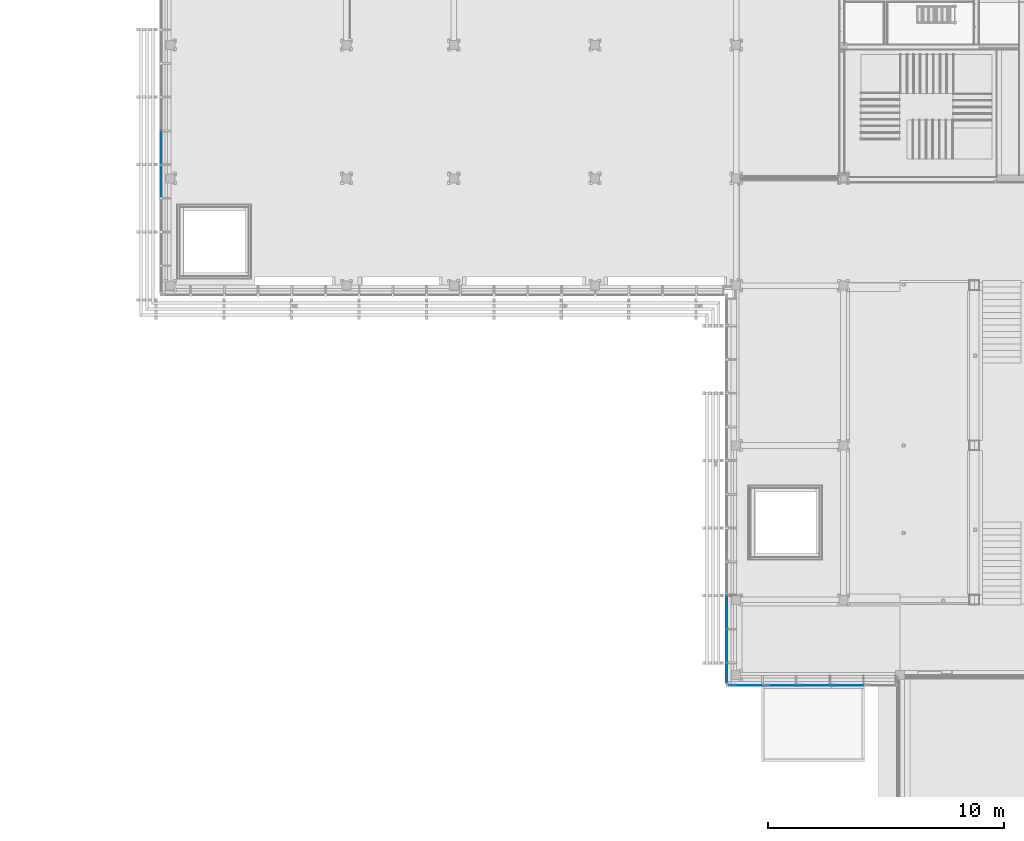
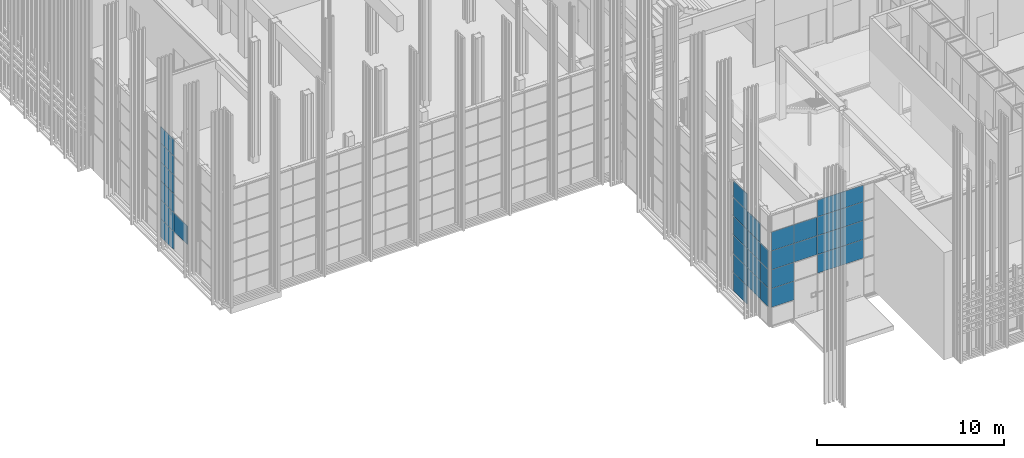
# One storey, part 51 of 260: 34 plates, 1 element without a shape of its own.
"""IFC2X3 building model written with IfcOpenShell, lengths in millimetres."""

from ifc_helpers import new_model, entity, si_unit, converted_unit, derived_unit, money_unit, direction, frame, origin_with_axes, place, context, subcontext, project, spatial, faceted_brep, source, transform, mapped, material, type_object, element, aggregate, save


model = new_model("IFC2X3")

# Units and contexts
model_context = context("Model", 3, precision=0.01, world=origin_with_axes(), true_north=direction((0.0, 1.0)))
body_context = subcontext(model_context, "Body", "Model", "MODEL_VIEW")
ifc_project = project(units=[si_unit("LENGTHUNIT", "METRE", prefix="MILLI"), si_unit("AREAUNIT", "SQUARE_METRE"), si_unit("VOLUMEUNIT", "CUBIC_METRE"), converted_unit("PLANEANGLEUNIT", "DEGREE", entity("IfcPlaneAngleMeasure", 0.0174532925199), si_unit("PLANEANGLEUNIT", "RADIAN"), dimensions=[0, 0, 0, 0, 0, 0, 0]), money_unit("EUR"), converted_unit("TIMEUNIT", "Year", entity("IfcTimeMeasure", 31556926.0), si_unit("TIMEUNIT", "SECOND"), dimensions=[0, 0, 1, 0, 0, 0, 0]), si_unit("MASSUNIT", "GRAM", prefix="KILO"), si_unit("THERMODYNAMICTEMPERATUREUNIT", "DEGREE_CELSIUS"), si_unit("LUMINOUSINTENSITYUNIT", "LUMEN"), si_unit("ENERGYUNIT", "JOULE", prefix="MEGA"), derived_unit("THERMALCONDUCTANCEUNIT", [(si_unit("POWERUNIT", "WATT"), 1), (si_unit("LENGTHUNIT", "METRE"), -1), (si_unit("THERMODYNAMICTEMPERATUREUNIT", "KELVIN"), -1)]), derived_unit("SPECIFICHEATCAPACITYUNIT", [(si_unit("ENERGYUNIT", "JOULE"), 1), (si_unit("MASSUNIT", "GRAM", prefix="KILO"), -1), (si_unit("THERMODYNAMICTEMPERATUREUNIT", "KELVIN"), -1)]), derived_unit("MASSDENSITYUNIT", [(si_unit("MASSUNIT", "GRAM", prefix="KILO"), 1), (si_unit("VOLUMEUNIT", "CUBIC_METRE"), -1)])], contexts=[model_context])

# Site, building, storey
site_placement = place(None, origin_with_axes())
site = spatial("IfcSite", under=ifc_project, at=site_placement, Name="Kolde pst 67a", CompositionType="ELEMENT")
building_placement = place(site_placement, origin_with_axes())
building = spatial("IfcBuilding", under=site, at=building_placement, Name="Riigigümnaasium", CompositionType="ELEMENT")
storey_placement = place(building_placement, origin_with_axes())
storey = spatial("IfcBuildingStorey", under=building, at=storey_placement, Name="1. korrus", CompositionType="ELEMENT", Elevation=0.0)

# Curtain wall, plates
curtain_wall_type = type_object("IfcCurtainWallType", Name="Curtain Wall Type", PredefinedType="NOTDEFINED")
curtain_wall_placement = place(storey_placement, frame((47829.9854655, 8727.77020058, -0.000749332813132), z_axis=(0.0, 0.0, 1.0), x_axis=(1.0, 0.0, 0.0)))
curtain_wall = element("IfcCurtainWall", 1, at=curtain_wall_placement, inside=storey, type_object=curtain_wall_type, Name="KLAASFASSAAD")
ifc_material = material(Name="_KLAAS - kirgas")
plate_type_1 = type_object("IfcPlateType", Name="Main Panel 76 x 1220 x 33", PredefinedType="NOTDEFINED")
shared_shape_1 = source(origin_with_axes(), body_context, "Body", "Brep", [
    faceted_brep([(-2381.56117781, 1224.99999003, -16.5), (-2381.56117781, 1224.99999003, 16.5), (-1033.80918651, 1224.99999003, 16.5), (-1033.80918651, 1224.99999003, -16.5), (-2381.56117781, 4.99999028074, -16.5), (-2381.56117781, 4.99999028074, 16.5), (-1033.80918651, 4.99999028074, 16.5), (-957.939936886, 4.99999028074, 16.5), (-957.939936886, 1224.99999003, 16.5), (-957.939936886, 1224.99999003, -16.5), (-957.939936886, 4.99999028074, -16.5), (-1033.80918651, 4.99999028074, -16.5)], [[[0, 1, 2, 3]], [[4, 5, 1, 0]], [[1, 5, 6, 7, 8, 2]], [[3, 2, 8, 9]], [[0, 3, 9, 10, 11, 4]], [[11, 6, 5, 4]], [[10, 7, 6, 11]], [[9, 8, 7, 10]]]),
])
plate_1_placement = place(curtain_wall_placement, frame((0.0, -2.62676991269e-07, 1845.00074933), z_axis=(0.0, 0.0, 1.0), x_axis=(9.11614519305e-10, -1.0, 0.0)))
plate_1 = element("IfcPlate", 2, at=plate_1_placement, type_object=plate_type_1, material=ifc_material, Name="RF PANEEL PEAMINE-010", context=body_context, shape_type="MappedRepresentation", body=[
    mapped(shared_shape_1, transform((1457.77009981, 0.0, -615.0), x_axis=(1.0, 0.0, 0.0), y_axis=(0.0, 0.0, 1.0), z_axis=(0.0, -1.0, 0.0))),
])
plate_2_placement = place(curtain_wall_placement, frame((0.0, -2.82199152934e-07, 3075.00074933), z_axis=(0.0, 0.0, 1.0), x_axis=(9.11614519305e-10, -1.0, 0.0)))
plate_2 = element("IfcPlate", 3, at=plate_2_placement, type_object=plate_type_1, material=ifc_material, Name="RF PANEEL PEAMINE-010", context=body_context, shape_type="MappedRepresentation", body=[
    mapped(shared_shape_1, transform((1457.77009979, 0.0, -615.0), x_axis=(1.0, 0.0, 0.0), y_axis=(0.0, 0.0, 1.0), z_axis=(0.0, -1.0, 0.0))),
])
plate_type_2 = type_object("IfcPlateType", Name="Main Panel 72 x 1195 x 33", PredefinedType="NOTDEFINED")
shared_shape_2 = source(origin_with_axes(), body_context, "Body", "Brep", [
    faceted_brep([(-2777.75197811, 1225.00067812, -16.5), (-2777.75197811, 1225.00067812, 16.5), (-1430.00000069, 1225.00067812, 16.5), (-1430.00000069, 1225.00067812, -16.5), (-2777.75199941, 30.0000019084, -16.5), (-2777.75199941, 30.0000019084, 16.5), (-1430.00000069, 30.0000019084, 16.5), (-1357.75198011, 30.0000019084, 16.5), (-1357.75198011, 1225.00067812, 16.5), (-1357.75198011, 1225.00067812, -16.5), (-1357.75198011, 30.0000019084, -16.5), (-1430.00000069, 30.0000019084, -16.5)], [[[0, 1, 2, 3]], [[4, 5, 1, 0]], [[1, 5, 6, 7, 8, 2]], [[3, 2, 8, 9]], [[0, 3, 9, 10, 11, 4]], [[11, 6, 5, 4]], [[10, 7, 6, 11]], [[9, 8, 7, 10]]]),
])
plate_3_placement = place(curtain_wall_placement, frame((-1.30472699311e-06, 1431.20707606, 615.000374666), z_axis=(0.0, 0.0, 1.0), x_axis=(9.1161639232e-10, -1.0, 0.0)))
plate_3 = element("IfcPlate", 4, at=plate_3_placement, type_object=plate_type_2, material=ifc_material, Name="RF PANEEL PEAMINE-010", context=body_context, shape_type="MappedRepresentation", body=[
    mapped(shared_shape_2, transform((1855.16799139, 0.0, -615.000374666), x_axis=(1.0, 0.0, 0.0), y_axis=(0.0, 0.0, 1.0), z_axis=(0.0, -1.0, 0.0))),
])
plate_type_3 = type_object("IfcPlateType", Name="Main Panel 72 x 1220 x 33", PredefinedType="NOTDEFINED")
shared_shape_3 = source(origin_with_axes(), body_context, "Body", "Brep", [
    faceted_brep([(-2777.75198662, 1225.00000656, -16.5), (-2777.75198662, 1225.00000656, 16.5), (-1430.0, 1225.00000656, 16.5), (-1430.0, 1225.00000656, -16.5), (-2777.75198662, 4.99999672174, -16.5), (-2777.75198662, 4.99999672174, 16.5), (-1430.0, 4.99999672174, 16.5), (-1357.75198007, 4.99999672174, 16.5), (-1357.75198007, 1225.00000656, 16.5), (-1357.75198007, 1225.00000656, -16.5), (-1357.75198007, 4.99999672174, -16.5), (-1430.0, 4.99999672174, -16.5)], [[[0, 1, 2, 3]], [[4, 5, 1, 0]], [[1, 5, 6, 7, 8, 2]], [[3, 2, 8, 9]], [[0, 3, 9, 10, 11, 4]], [[11, 6, 5, 4]], [[10, 7, 6, 11]], [[9, 8, 7, 10]]]),
])
plate_4_placement = place(curtain_wall_placement, frame((-1.30472699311e-06, 1431.20707357, 1845.00074933), z_axis=(0.0, 0.0, 1.0), x_axis=(9.1161639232e-10, -1.0, 0.0)))
plate_4 = element("IfcPlate", 5, at=plate_4_placement, type_object=plate_type_3, material=ifc_material, Name="RF PANEEL PEAMINE-010", context=body_context, shape_type="MappedRepresentation", body=[
    mapped(shared_shape_3, transform((1855.1679889, 0.0, -615.0), x_axis=(1.0, 0.0, 0.0), y_axis=(0.0, 0.0, 1.0), z_axis=(0.0, -1.0, 0.0))),
])
plate_5_placement = place(curtain_wall_placement, frame((-1.30472699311e-06, 1431.20707357, 3075.00074933), z_axis=(0.0, 0.0, 1.0), x_axis=(9.1161639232e-10, -1.0, 0.0)))
plate_5 = element("IfcPlate", 6, at=plate_5_placement, type_object=plate_type_3, material=ifc_material, Name="RF PANEEL PEAMINE-010", context=body_context, shape_type="MappedRepresentation", body=[
    mapped(shared_shape_3, transform((1855.1679889, 0.0, -615.0), x_axis=(1.0, 0.0, 0.0), y_axis=(0.0, 0.0, 1.0), z_axis=(0.0, -1.0, 0.0))),
])
plate_6_placement = place(curtain_wall_placement, frame((-1.30472699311e-06, 1431.20707357, 5535.00074933), z_axis=(0.0, 0.0, 1.0), x_axis=(9.1161639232e-10, -1.0, 0.0)))
plate_6 = element("IfcPlate", 7, at=plate_6_placement, type_object=plate_type_3, material=ifc_material, Name="RF PANEEL PEAMINE-047", context=body_context, shape_type="MappedRepresentation", body=[
    mapped(shared_shape_3, transform((1855.1679889, 0.0, -615.0), x_axis=(1.0, 0.0, 0.0), y_axis=(0.0, 0.0, 1.0), z_axis=(0.0, -1.0, 0.0))),
])
plate_7_placement = place(curtain_wall_placement, frame((-1.30472699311e-06, 1431.20707357, 4305.00074933), z_axis=(0.0, 0.0, 1.0), x_axis=(9.1161639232e-10, -1.0, 0.0)))
plate_7 = element("IfcPlate", 8, at=plate_7_placement, type_object=plate_type_3, material=ifc_material, Name="RF PANEEL PEAMINE-034", context=body_context, shape_type="MappedRepresentation", body=[
    mapped(shared_shape_3, transform((1855.1679889, 0.0, -615.0), x_axis=(1.0, 0.0, 0.0), y_axis=(0.0, 0.0, 1.0), z_axis=(0.0, -1.0, 0.0))),
])
plate_type_4 = type_object("IfcPlateType", Name="Main Panel 1122 x 1220 x 33", PredefinedType="NOTDEFINED")
shared_shape_4 = source(origin_with_axes(), body_context, "Body", "Brep", [
    faceted_brep([(-1703.56557318, 1225.0000029, -16.5), (-1703.56557318, 1225.0000029, 16.5), (-1430.00001212, 1225.0000029, 16.5), (-1430.00001212, 1225.0000029, -16.5), (-1703.56557318, 5.00000249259, -16.5), (-1703.56557318, 5.00000249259, 16.5), (-1430.00001212, 5.00000249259, 16.5), (-307.908334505, 5.00000249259, 16.5), (-307.908334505, 1225.0000029, 16.5), (-307.908334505, 1225.0000029, -16.5), (-307.908334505, 5.00000249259, -16.5), (-1430.00001212, 5.00000249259, -16.5)], [[[0, 1, 2, 3]], [[4, 5, 1, 0]], [[1, 5, 6, 7, 8, 2]], [[3, 2, 8, 9]], [[0, 3, 9, 10, 11, 4]], [[11, 6, 5, 4]], [[10, 7, 6, 11]], [[9, 8, 7, 10]]]),
])
plate_8_placement = place(curtain_wall_placement, frame((631.407612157, -1457.77027111, 3075.00074933), z_axis=(0.0, 0.0, 1.0), x_axis=(1.0, -2.70881141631e-07, 0.0)))
plate_8 = element("IfcPlate", 9, at=plate_8_placement, type_object=plate_type_4, material=ifc_material, Name="RF PANEEL PEAMINE-010", context=body_context, shape_type="MappedRepresentation", body=[
    mapped(shared_shape_4, transform((1182.15797217, 0.0, -615.0), x_axis=(1.0, 1.88105965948e-10, 0.0), y_axis=(0.0, 0.0, 1.0), z_axis=(1.88105965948e-10, -1.0, 0.0))),
])
plate_9_placement = place(curtain_wall_placement, frame((631.407612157, -1457.77027111, 5535.00074933), z_axis=(0.0, 0.0, 1.0), x_axis=(1.0, -2.70881141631e-07, 0.0)))
plate_9 = element("IfcPlate", 10, at=plate_9_placement, type_object=plate_type_4, material=ifc_material, Name="RF PANEEL PEAMINE-027", context=body_context, shape_type="MappedRepresentation", body=[
    mapped(shared_shape_4, transform((1182.15797217, 0.0, -615.0), x_axis=(1.0, 1.88105965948e-10, 0.0), y_axis=(0.0, 0.0, 1.0), z_axis=(1.88105965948e-10, -1.0, 0.0))),
])
shared_shape_5 = source(origin_with_axes(), body_context, "Body", "Brep", [
    faceted_brep([(-1727.90833497, 1225.00000656, -16.5), (-1727.90833497, 1225.00000656, 16.5), (-1430.0, 1225.00000656, 16.5), (-1430.0, 1225.00000656, -16.5), (-1727.90833497, 4.99999672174, -16.5), (-1727.90833497, 4.99999672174, 16.5), (-1430.0, 4.99999672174, 16.5), (-307.908328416, 4.99999672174, 16.5), (-307.908328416, 1225.00000656, 16.5), (-307.908328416, 1225.00000656, -16.5), (-307.908328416, 4.99999672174, -16.5), (-1430.0, 4.99999672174, -16.5)], [[[0, 1, 2, 3]], [[4, 5, 1, 0]], [[1, 5, 6, 7, 8, 2]], [[3, 2, 8, 9]], [[0, 3, 9, 10, 11, 4]], [[11, 6, 5, 4]], [[10, 7, 6, 11]], [[9, 8, 7, 10]]]),
])
plate_10_placement = place(curtain_wall_placement, frame((4948.2933632, -1457.77144047, 3075.00074933), z_axis=(0.0, 0.0, 1.0), x_axis=(1.0, -2.70881141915e-07, 0.0)))
plate_10 = element("IfcPlate", 11, at=plate_10_placement, type_object=plate_type_4, material=ifc_material, Name="RF PANEEL PEAMINE-010", context=body_context, shape_type="MappedRepresentation", body=[
    mapped(shared_shape_5, transform((1155.27222113, 0.0, -615.0), x_axis=(1.0, 1.88106250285e-10, 0.0), y_axis=(0.0, 0.0, 1.0), z_axis=(1.88106250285e-10, -1.0, 0.0))),
])
plate_11_placement = place(curtain_wall_placement, frame((3518.2933632, -1457.77105311, 4305.00074933), z_axis=(0.0, 0.0, 1.0), x_axis=(1.0, -2.70881141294e-07, 0.0)))
plate_11 = element("IfcPlate", 12, at=plate_11_placement, type_object=plate_type_4, material=ifc_material, Name="RF PANEEL PEAMINE-015", context=body_context, shape_type="MappedRepresentation", body=[
    mapped(shared_shape_5, transform((1155.27222113, 0.0, -615.0), x_axis=(1.0, 1.88105629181e-10, 0.0), y_axis=(0.0, 0.0, 1.0), z_axis=(1.88105629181e-10, -1.0, 0.0))),
])
plate_12_placement = place(curtain_wall_placement, frame((4948.2933632, -1457.77144047, 4305.00074933), z_axis=(0.0, 0.0, 1.0), x_axis=(1.0, -2.70881141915e-07, 0.0)))
plate_12 = element("IfcPlate", 13, at=plate_12_placement, type_object=plate_type_4, material=ifc_material, Name="RF PANEEL PEAMINE-016", context=body_context, shape_type="MappedRepresentation", body=[
    mapped(shared_shape_5, transform((1155.27222113, 0.0, -615.0), x_axis=(1.0, 1.88106250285e-10, 0.0), y_axis=(0.0, 0.0, 1.0), z_axis=(1.88106250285e-10, -1.0, 0.0))),
])
plate_13_placement = place(curtain_wall_placement, frame((4948.29335965, -1457.77144047, 5535.00074933), z_axis=(0.0, 0.0, 1.0), x_axis=(1.0, -2.70881141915e-07, 0.0)))
plate_13 = element("IfcPlate", 14, at=plate_13_placement, type_object=plate_type_4, material=ifc_material, Name="RF PANEEL PEAMINE-021", context=body_context, shape_type="MappedRepresentation", body=[
    mapped(shared_shape_5, transform((1155.27222468, 0.0, -615.0), x_axis=(1.0, 1.88106250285e-10, 0.0), y_axis=(0.0, 0.0, 1.0), z_axis=(1.88106250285e-10, -1.0, 0.0))),
])
plate_14_placement = place(curtain_wall_placement, frame((3518.2933632, -1457.77105311, 5535.00074933), z_axis=(0.0, 0.0, 1.0), x_axis=(1.0, -2.70881141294e-07, 0.0)))
plate_14 = element("IfcPlate", 15, at=plate_14_placement, type_object=plate_type_4, material=ifc_material, Name="RF PANEEL PEAMINE-023", context=body_context, shape_type="MappedRepresentation", body=[
    mapped(shared_shape_5, transform((1155.27222113, 0.0, -615.0), x_axis=(1.0, 1.88105629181e-10, 0.0), y_axis=(0.0, 0.0, 1.0), z_axis=(1.88105629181e-10, -1.0, 0.0))),
])
plate_15_placement = place(curtain_wall_placement, frame((3518.2933632, -1457.77105311, 3075.00074933), z_axis=(0.0, 0.0, 1.0), x_axis=(1.0, -2.70881141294e-07, 0.0)))
plate_15 = element("IfcPlate", 16, at=plate_15_placement, type_object=plate_type_4, material=ifc_material, Name="RF PANEEL PEAMINE-010", context=body_context, shape_type="MappedRepresentation", body=[
    mapped(shared_shape_5, transform((1155.27222113, 0.0, -615.0), x_axis=(1.0, 1.88105629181e-10, 0.0), y_axis=(0.0, 0.0, 1.0), z_axis=(1.88105629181e-10, -1.0, 0.0))),
])
shared_shape_6 = source(origin_with_axes(), body_context, "Body", "Brep", [
    faceted_brep([(-1703.56557318, 1225.0000029, -16.5), (-1703.56557318, 1225.0000029, 16.5), (-1430.00001212, 1225.0000029, 16.5), (-1430.00001212, 1225.0000029, -16.5), (-1703.56557318, 5.00000249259, -16.5), (-1703.56557318, 5.00000249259, 16.5), (-1430.00001212, 5.00000249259, 16.5), (-307.908334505, 5.00000249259, 16.5), (-307.908334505, 1225.0000029, 16.5), (-307.908334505, 1225.0000029, -16.5), (-307.908334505, 5.00000249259, -16.5), (-1430.00001212, 5.00000249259, -16.5)], [[[0, 1, 2, 3]], [[4, 5, 1, 0]], [[1, 5, 6, 7, 8, 2]], [[3, 2, 8, 9]], [[0, 3, 9, 10, 11, 4]], [[11, 6, 5, 4]], [[10, 7, 6, 11]], [[9, 8, 7, 10]]]),
])
plate_16_placement = place(curtain_wall_placement, frame((631.407612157, -1457.77027111, 4305.00074933), z_axis=(0.0, 0.0, 1.0), x_axis=(1.0, -2.70881141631e-07, 0.0)))
plate_16 = element("IfcPlate", 17, at=plate_16_placement, type_object=plate_type_4, material=ifc_material, Name="RF PANEEL PEAMINE-011", context=body_context, shape_type="MappedRepresentation", body=[
    mapped(shared_shape_6, transform((1182.15797217, 0.0, -615.0), x_axis=(1.0, 1.88105965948e-10, 0.0), y_axis=(0.0, 0.0, 1.0), z_axis=(1.88105965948e-10, -1.0, 0.0))),
])
plate_17_placement = place(curtain_wall_placement, frame((631.40761046, -1457.77027111, 1845.00074933), z_axis=(0.0, 0.0, 1.0), x_axis=(1.0, -2.70881141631e-07, 0.0)))
plate_17 = element("IfcPlate", 18, at=plate_17_placement, type_object=plate_type_4, material=ifc_material, Name="Pöörduks", context=body_context, shape_type="MappedRepresentation", body=[
    mapped(shared_shape_6, transform((1182.15797387, 0.0, -615.0), x_axis=(1.0, 1.88105965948e-10, 0.0), y_axis=(0.0, 0.0, 1.0), z_axis=(1.88105965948e-10, -1.0, 0.0))),
])
shared_shape_7 = source(origin_with_axes(), body_context, "Body", "Brep", [
    faceted_brep([(-297.908335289, 1225.00000683, -16.5), (-297.908335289, 1225.00000683, 16.5), (-2.50608422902e-07, 1225.00000683, 16.5), (-2.50608422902e-07, 1225.00000683, -16.5), (-297.908335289, 4.99999672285, -16.5), (-297.908335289, 4.99999672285, 16.5), (-2.50608422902e-07, 4.99999672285, 16.5), (1122.09167158, 4.99999672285, 16.5), (1122.09167158, 1225.00000683, 16.5), (1122.09167158, 1225.00000683, -16.5), (1122.09167158, 4.99999672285, -16.5), (-2.50608422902e-07, 4.99999672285, -16.5)], [[[0, 1, 2, 3]], [[4, 5, 1, 0]], [[1, 5, 6, 7, 8, 2]], [[3, 2, 8, 9]], [[0, 3, 9, 10, 11, 4]], [[11, 6, 5, 4]], [[10, 7, 6, 11]], [[9, 8, 7, 10]]]),
])
plate_18_placement = place(curtain_wall_placement, frame((2088.29336309, -1457.77066575, 4305.00074933), z_axis=(0.0, 0.0, 1.0), x_axis=(1.0, -2.70881141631e-07, 0.0)))
plate_18 = element("IfcPlate", 19, at=plate_18_placement, type_object=plate_type_4, material=ifc_material, Name="RF PANEEL PEAMINE-014", context=body_context, shape_type="MappedRepresentation", body=[
    mapped(shared_shape_7, transform((-274.727778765, 0.0, -615.0), x_axis=(1.0, 1.88105965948e-10, 0.0), y_axis=(0.0, 0.0, 1.0), z_axis=(1.88105965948e-10, -1.0, 0.0))),
])
plate_19_placement = place(curtain_wall_placement, frame((2088.29336309, -1457.77066575, 5535.00074933), z_axis=(0.0, 0.0, 1.0), x_axis=(1.0, -2.70881141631e-07, 0.0)))
plate_19 = element("IfcPlate", 20, at=plate_19_placement, type_object=plate_type_4, material=ifc_material, Name="RF PANEEL PEAMINE-025", context=body_context, shape_type="MappedRepresentation", body=[
    mapped(shared_shape_7, transform((-274.727778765, 0.0, -615.0), x_axis=(1.0, 1.88105965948e-10, 0.0), y_axis=(0.0, 0.0, 1.0), z_axis=(1.88105965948e-10, -1.0, 0.0))),
])
shared_shape_8 = source(origin_with_axes(), body_context, "Body", "Brep", [
    faceted_brep([(-2381.5611778, 1224.99999178, -16.5), (-2381.5611778, 1224.99999178, 16.5), (-1033.80918458, 1224.99999178, 16.5), (-1033.80918458, 1224.99999178, -16.5), (-2381.5611778, 4.99999028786, -16.5), (-2381.5611778, 4.99999028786, 16.5), (-1033.80918458, 4.99999028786, 16.5), (-957.939934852, 4.99999028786, 16.5), (-957.939934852, 1224.99999178, 16.5), (-957.939934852, 1224.99999178, -16.5), (-957.939934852, 4.99999028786, -16.5), (-1033.80918458, 4.99999028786, -16.5)], [[[0, 1, 2, 3]], [[4, 5, 1, 0]], [[1, 5, 6, 7, 8, 2]], [[3, 2, 8, 9]], [[0, 3, 9, 10, 11, 4]], [[11, 6, 5, 4]], [[10, 7, 6, 11]], [[9, 8, 7, 10]]]),
])
plate_20_placement = place(curtain_wall_placement, frame((0.0, -9.43114031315e-07, 5535.00074933), z_axis=(0.0, 0.0, 1.0), x_axis=(9.11614519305e-10, -1.0, 0.0)))
plate_20 = element("IfcPlate", 21, at=plate_20_placement, type_object=plate_type_1, material=ifc_material, Name="RF PANEEL PEAMINE-044", context=body_context, shape_type="MappedRepresentation", body=[
    mapped(shared_shape_8, transform((1457.77009913, 0.0, -615.0), x_axis=(1.0, 0.0, 0.0), y_axis=(0.0, 0.0, 1.0), z_axis=(0.0, -1.0, 0.0))),
])
plate_21_placement = place(curtain_wall_placement, frame((0.0, -6.22419449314e-07, 4305.00074933), z_axis=(0.0, 0.0, 1.0), x_axis=(9.11614519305e-10, -1.0, 0.0)))
plate_21 = element("IfcPlate", 22, at=plate_21_placement, type_object=plate_type_1, material=ifc_material, Name="RF PANEEL PEAMINE-033", context=body_context, shape_type="MappedRepresentation", body=[
    mapped(shared_shape_8, transform((1457.77009945, 0.0, -615.0), x_axis=(1.0, 0.0, 0.0), y_axis=(0.0, 0.0, 1.0), z_axis=(0.0, -1.0, 0.0))),
])
plate_type_5 = type_object("IfcPlateType", Name="Main Panel 915 x 1220 x 33", PredefinedType="NOTDEFINED")
shared_shape_9 = source(origin_with_axes(), body_context, "Body", "Brep", [
    faceted_brep([(-1935.00000983, 1225.00000656, -16.5), (-1935.00000983, 1225.00000656, 16.5), (-1430.0, 1225.00000656, 16.5), (-1430.0, 1225.00000656, -16.5), (-1935.00000983, 4.99999672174, -16.5), (-1935.00000983, 4.99999672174, 16.5), (-1430.0, 4.99999672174, 16.5), (-515.000003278, 4.99999672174, 16.5), (-515.000003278, 1225.00000656, 16.5), (-515.000003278, 1225.00000656, -16.5), (-515.000003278, 4.99999672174, -16.5), (-1430.0, 4.99999672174, -16.5)], [[[0, 1, 2, 3]], [[4, 5, 1, 0]], [[1, 5, 6, 7, 8, 2]], [[3, 2, 8, 9]], [[0, 3, 9, 10, 11, 4]], [[11, 6, 5, 4]], [[10, 7, 6, 11]], [[9, 8, 7, 10]]]),
])
plate_22_placement = place(curtain_wall_placement, frame((-23999.9358354, 21420.6075521, 3075.00074933), z_axis=(0.0, 0.0, 1.0), x_axis=(-7.64768489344e-06, -0.999999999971, 0.0)))
plate_22 = element("IfcPlate", 23, at=plate_22_placement, type_object=plate_type_5, material=ifc_material, Name="RF PANEEL PEAMINE-210", context=body_context, shape_type="MappedRepresentation", body=[
    mapped(shared_shape_9, transform((1293.3333377, 0.0, -615.0), x_axis=(1.0, 0.0, 0.0), y_axis=(0.0, 0.0, 1.0), z_axis=(0.0, -1.0, 0.0))),
])
plate_23_placement = place(curtain_wall_placement, frame((-23999.9358354, 21420.6075495, 5535.00074933), z_axis=(0.0, 0.0, 1.0), x_axis=(-7.64768489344e-06, -0.999999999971, 0.0)))
plate_23 = element("IfcPlate", 24, at=plate_23_placement, type_object=plate_type_5, material=ifc_material, Name="RF PANEEL PEAMINE-212", context=body_context, shape_type="MappedRepresentation", body=[
    mapped(shared_shape_9, transform((1293.33333514, 0.0, -615.0), x_axis=(1.0, 0.0, 0.0), y_axis=(0.0, 0.0, 1.0), z_axis=(0.0, -1.0, 0.0))),
])
shared_shape_10 = source(origin_with_axes(), body_context, "Body", "Brep", [
    faceted_brep([(-1935.00000983, 1225.00000656, -16.5), (-1935.00000983, 1225.00000656, 16.5), (-1430.0, 1225.00000656, 16.5), (-1430.0, 1225.00000656, -16.5), (-1935.00000983, 4.99999672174, -16.5), (-1935.00000983, 4.99999672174, 16.5), (-1430.0, 4.99999672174, 16.5), (-515.000003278, 4.99999672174, 16.5), (-515.000003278, 1225.00000656, 16.5), (-515.000003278, 1225.00000656, -16.5), (-515.000003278, 4.99999672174, -16.5), (-1430.0, 4.99999672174, -16.5)], [[[0, 1, 2, 3]], [[4, 5, 1, 0]], [[1, 5, 6, 7, 8, 2]], [[3, 2, 8, 9]], [[0, 3, 9, 10, 11, 4]], [[11, 6, 5, 4]], [[10, 7, 6, 11]], [[9, 8, 7, 10]]]),
])
plate_24_placement = place(curtain_wall_placement, frame((-23999.9358354, 21420.6075521, 4305.00074933), z_axis=(0.0, 0.0, 1.0), x_axis=(-7.64768489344e-06, -0.999999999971, 0.0)))
plate_24 = element("IfcPlate", 25, at=plate_24_placement, type_object=plate_type_5, material=ifc_material, Name="RF PANEEL PEAMINE-211", context=body_context, shape_type="MappedRepresentation", body=[
    mapped(shared_shape_10, transform((1293.3333377, 0.0, -615.0), x_axis=(1.0, 0.0, 0.0), y_axis=(0.0, 0.0, 1.0), z_axis=(0.0, -1.0, 0.0))),
])
plate_25_placement = place(curtain_wall_placement, frame((-23999.9467716, 19990.6075521, 1845.00074933), z_axis=(0.0, 0.0, 1.0), x_axis=(-7.64768489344e-06, -0.999999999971, 0.0)))
plate_25 = element("IfcPlate", 26, at=plate_25_placement, type_object=plate_type_5, material=ifc_material, Name="RF PANEEL PEAMINE-204", context=body_context, shape_type="MappedRepresentation", body=[
    mapped(shared_shape_10, transform((1293.3333377, 0.0, -615.0), x_axis=(1.0, 0.0, 0.0), y_axis=(0.0, 0.0, 1.0), z_axis=(0.0, -1.0, 0.0))),
])
plate_26_placement = place(curtain_wall_placement, frame((-23999.9358354, 21420.6075521, 1845.00074933), z_axis=(0.0, 0.0, 1.0), x_axis=(-7.64768489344e-06, -0.999999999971, 0.0)))
plate_26 = element("IfcPlate", 27, at=plate_26_placement, type_object=plate_type_5, material=ifc_material, Name="RF PANEEL PEAMINE-209", context=body_context, shape_type="MappedRepresentation", body=[
    mapped(shared_shape_10, transform((1293.3333377, 0.0, -615.0), x_axis=(1.0, 0.0, 0.0), y_axis=(0.0, 0.0, 1.0), z_axis=(0.0, -1.0, 0.0))),
])
plate_type_6 = type_object("IfcPlateType", Name="Main Panel 915 x 1075 x 33", PredefinedType="NOTDEFINED")
shared_shape_11 = source(origin_with_axes(), body_context, "Body", "Brep", [
    faceted_brep([(-1934.99999498, 1079.99888527, -16.5), (-1934.99999498, 1079.99888527, 16.5), (-1430.00000728, 1079.99888527, 16.5), (-1430.00000728, 1079.99888527, -16.5), (-1934.99999498, 4.99999671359, -16.5), (-1934.99999498, 4.99999671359, 16.5), (-1430.00000728, 4.99999671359, 16.5), (-514.999990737, 4.99999671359, 16.5), (-514.999990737, 1079.99888527, 16.5), (-514.999990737, 1079.99888527, -16.5), (-514.999990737, 4.99999671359, -16.5), (-1430.00000728, 4.99999671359, -16.5)], [[[0, 1, 2, 3]], [[4, 5, 1, 0]], [[1, 5, 6, 7, 8, 2]], [[3, 2, 8, 9]], [[0, 3, 9, 10, 11, 4]], [[11, 6, 5, 4]], [[10, 7, 6, 11]], [[9, 8, 7, 10]]]),
])
plate_27_placement = place(curtain_wall_placement, frame((-23999.935966, 21403.5242135, 6841.25008067), z_axis=(0.0, 0.0, 1.0), x_axis=(-7.64768489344e-06, -0.999999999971, 0.0)))
plate_27 = element("IfcPlate", 28, at=plate_27_placement, type_object=plate_type_6, material=ifc_material, Name="RF PANEEL PEAMINE-219", context=body_context, shape_type="MappedRepresentation", body=[
    mapped(shared_shape_11, transform((1276.24999914, 0.0, -691.249331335), x_axis=(1.0, 0.0, 0.0), y_axis=(0.0, 0.0, 1.0), z_axis=(0.0, -1.0, 0.0))),
])
plate_type_7 = type_object("IfcPlateType", Name="Main Panel 1122 x 1075 x 33", PredefinedType="NOTDEFINED")
shared_shape_12 = source(origin_with_axes(), body_context, "Body", "Brep", [
    faceted_brep([(-1727.90833496, 1079.9991445, -16.5), (-1727.90833496, 1079.9991445, 16.5), (-1429.9999995, 1079.9991232, 16.5), (-1429.9999995, 1079.9991232, -16.5), (-1727.90833496, 4.99999672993, -16.5), (-1727.90833496, 4.99999672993, 16.5), (-1429.9999995, 4.99999672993, 16.5), (-307.908326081, 4.99999672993, 16.5), (-307.908326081, 1079.99903796, 16.5), (-307.908326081, 1079.99903796, -16.5), (-307.908326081, 4.99999672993, -16.5), (-1429.9999995, 4.99999672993, -16.5)], [[[0, 1, 2, 3]], [[4, 5, 1, 0]], [[1, 5, 6, 7, 8, 2]], [[3, 2, 8, 9]], [[0, 3, 9, 10, 11, 4]], [[11, 6, 5, 4]], [[10, 7, 6, 11]], [[9, 8, 7, 10]]]),
])
plate_28_placement = place(curtain_wall_placement, frame((3552.63433692, -1457.77106242, 6841.2501928), z_axis=(0.0, 0.0, 1.0), x_axis=(1.0, -2.70881141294e-07, 0.0)))
plate_28 = element("IfcPlate", 29, at=plate_28_placement, type_object=plate_type_7, material=ifc_material, Name="RF PANEEL PEAMINE-026", context=body_context, shape_type="MappedRepresentation", body=[
    mapped(shared_shape_12, transform((1120.93124741, 0.0, -691.249443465), x_axis=(1.0, 1.88105629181e-10, 0.0), y_axis=(0.0, 0.0, 1.0), z_axis=(1.88105629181e-10, -1.0, 0.0))),
])
plate_29_placement = place(curtain_wall_placement, frame((4982.6343284, -1457.77144978, 6841.25013795), z_axis=(0.0, 0.0, 1.0), x_axis=(1.0, -2.70881141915e-07, 0.0)))
plate_29 = element("IfcPlate", 30, at=plate_29_placement, type_object=plate_type_7, material=ifc_material, Name="RF PANEEL PEAMINE-017", context=body_context, shape_type="MappedRepresentation", body=[
    mapped(shared_shape_12, transform((1120.93125593, 0.0, -691.24938862), x_axis=(1.0, 1.88106250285e-10, 0.0), y_axis=(0.0, 0.0, 1.0), z_axis=(1.88106250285e-10, -1.0, 0.0))),
])
plate_type_8 = type_object("IfcPlateType", Name="Main Panel 915 x 1195 x 33", PredefinedType="NOTDEFINED")
shared_shape_13 = source(origin_with_axes(), body_context, "Body", "Brep", [
    faceted_brep([(-1935.0000098, 1225.00046278, -16.5), (-1935.0000098, 1225.00046278, 16.5), (-1429.99999636, 1225.00046278, 16.5), (-1429.99999636, 1225.00046278, -16.5), (-1934.99998849, 30.0000018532, -16.5), (-1934.99998849, 30.0000018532, 16.5), (-1429.99999636, 30.0000018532, 16.5), (-514.999993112, 30.0000018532, 16.5), (-515.00001442, 1225.00046278, 16.5), (-515.00001442, 1225.00046278, -16.5), (-514.999993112, 30.0000018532, -16.5), (-1429.99999636, 30.0000018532, -16.5)], [[[0, 1, 2, 3]], [[4, 5, 1, 0]], [[1, 5, 6, 7, 8, 2]], [[3, 2, 8, 9]], [[0, 3, 9, 10, 11, 4]], [[11, 6, 5, 4]], [[10, 7, 6, 11]], [[9, 8, 7, 10]]]),
])
plate_30_placement = place(curtain_wall_placement, frame((-23999.9358354, 21420.6075495, 615.000387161), z_axis=(0.0, 0.0, 1.0), x_axis=(-7.64768489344e-06, -0.999999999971, 0.0)))
plate_30 = element("IfcPlate", 31, at=plate_30_placement, type_object=plate_type_8, material=ifc_material, Name="RF PANEEL PEAMINE-208", context=body_context, shape_type="MappedRepresentation", body=[
    mapped(shared_shape_13, transform((1293.33333514, 0.0, -615.000362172), x_axis=(1.0, 0.0, 0.0), y_axis=(0.0, 0.0, 1.0), z_axis=(0.0, -1.0, 0.0))),
])
plate_type_9 = type_object("IfcPlateType", Name="Main Panel 72 x 1075 x 33", PredefinedType="NOTDEFINED")
shared_shape_14 = source(origin_with_axes(), body_context, "Body", "Brep", [
    faceted_brep([(-2777.75196529, 1079.99919118, -16.5), (-2777.75196529, 1079.99919118, 16.5), (-1429.99999271, 1079.99919118, 16.5), (-1429.99999271, 1079.99919118, -16.5), (-2777.7519866, 4.9999967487, -16.5), (-2777.7519866, 4.9999967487, 16.5), (-1429.99999271, 4.9999967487, 16.5), (-1357.75199369, 4.9999967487, 16.5), (-1357.75197238, 1079.99919118, 16.5), (-1357.75197238, 1079.99919118, -16.5), (-1357.75199369, 4.9999967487, -16.5), (-1429.99999271, 4.9999967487, -16.5)], [[[0, 1, 2, 3]], [[4, 5, 1, 0]], [[1, 5, 6, 7, 8, 2]], [[3, 2, 8, 9]], [[0, 3, 9, 10, 11, 4]], [[11, 6, 5, 4]], [[10, 7, 6, 11]], [[9, 8, 7, 10]]]),
])
plate_31_placement = place(curtain_wall_placement, frame((-1.35317179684e-06, 1484.35307587, 6841.25023072), z_axis=(0.0, 0.0, 1.0), x_axis=(9.1161639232e-10, -1.0, 0.0)))
plate_31 = element("IfcPlate", 32, at=plate_31_placement, type_object=plate_type_9, material=ifc_material, Name="RF PANEEL PEAMINE-050", context=body_context, shape_type="MappedRepresentation", body=[
    mapped(shared_shape_14, transform((1908.3139912, 0.0, -691.249481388), x_axis=(1.0, 0.0, 0.0), y_axis=(0.0, 0.0, 1.0), z_axis=(0.0, -1.0, 0.0))),
])
plate_type_10 = type_object("IfcPlateType", Name="Main Panel 838 x 1220 x 33", PredefinedType="NOTDEFINED")
shared_shape_15 = source(origin_with_axes(), body_context, "Body", "Brep", [
    faceted_brep([(-947.939937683, 1225.0, -16.5), (-947.939937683, 1225.0, 16.5), (-110.0, 1225.0, 16.5), (-110.0, 1225.0, -16.5), (-947.939937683, 5.0, -16.5), (-947.939937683, 5.0, 16.5), (-110.0, 5.0, 16.5), (-110.0, 5.0, -16.5)], [[[0, 1, 2, 3]], [[4, 5, 1, 0]], [[1, 5, 6, 2]], [[3, 2, 6, 7]], [[0, 3, 7, 4]], [[7, 6, 5, 4]]]),
])
plate_32_placement = place(curtain_wall_placement, frame((8.94559093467e-07, -981.300127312, 4305.00074933), z_axis=(0.0, 0.0, 1.0), x_axis=(9.11614519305e-10, -1.0, 0.0)))
plate_32 = element("IfcPlate", 33, at=plate_32_placement, type_object=plate_type_10, material=ifc_material, Name="RF PANEEL PEAMINE-029", context=body_context, shape_type="MappedRepresentation", body=[
    mapped(shared_shape_15, transform((476.469972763, 0.0, -615.0), x_axis=(1.0, 0.0, 0.0), y_axis=(0.0, 0.0, 1.0), z_axis=(0.0, -1.0, 0.0))),
])
plate_33_placement = place(curtain_wall_placement, frame((8.9455198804e-07, -981.300126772, 1845.00074933), z_axis=(0.0, 0.0, 1.0), x_axis=(9.11614519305e-10, -1.0, 0.0)))
plate_33 = element("IfcPlate", 34, at=plate_33_placement, type_object=plate_type_10, material=ifc_material, Name="RF PANEEL PEAMINE-010", context=body_context, shape_type="MappedRepresentation", body=[
    mapped(shared_shape_15, transform((476.469973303, 0.0, -615.0), x_axis=(1.0, 0.0, 0.0), y_axis=(0.0, 0.0, 1.0), z_axis=(0.0, -1.0, 0.0))),
])
plate_34_placement = place(curtain_wall_placement, frame((8.94559093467e-07, -981.300126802, 3075.00074933), z_axis=(0.0, 0.0, 1.0), x_axis=(9.11614519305e-10, -1.0, 0.0)))
plate_34 = element("IfcPlate", 35, at=plate_34_placement, type_object=plate_type_10, material=ifc_material, Name="RF PANEEL PEAMINE-010", context=body_context, shape_type="MappedRepresentation", body=[
    mapped(shared_shape_15, transform((476.469973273, 0.0, -615.0), x_axis=(1.0, 0.0, 0.0), y_axis=(0.0, 0.0, 1.0), z_axis=(0.0, -1.0, 0.0))),
])
aggregate(curtain_wall, [plate_1, plate_2, plate_3, plate_4, plate_5, plate_8, plate_10, plate_16, plate_18, plate_11, plate_12, plate_9, plate_20, plate_6, plate_22, plate_24, plate_23, plate_27, plate_28, plate_29, plate_13, plate_14, plate_19, plate_15, plate_25, plate_30, plate_26, plate_7, plate_31, plate_21, plate_32, plate_33, plate_34, plate_17])

save(model, "model.ifc")
